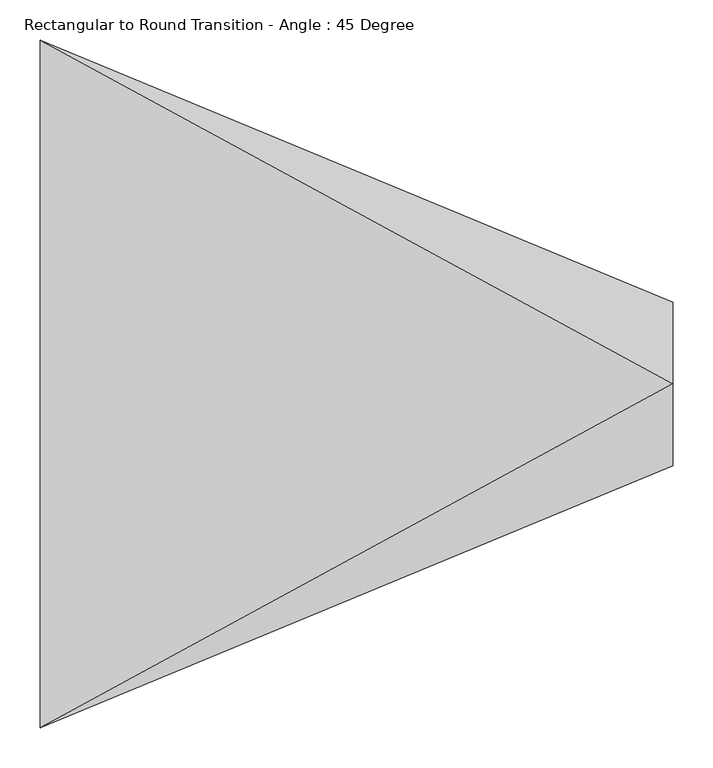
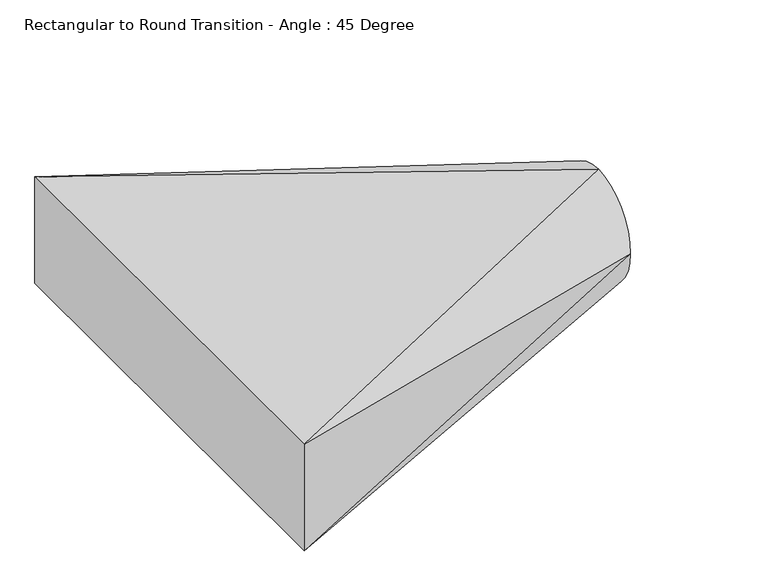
"""IFC4 building model written with IfcOpenShell, lengths in millimetres: duct fitting geometry, Rectangular to Round Transition - Angle : 45 Degree."""

from ifc_helpers import new_model, si_unit, frame, origin, place, context, project, spatial, circle_curve, source, transform, mapped, element, save
from ifc_brep_helpers import plane_surface, spline_surface, advanced_brep


def rectangular_to_round_transition_angle_45_degree_09297cf0(model_context):
    return source(origin(), model_context, "Body", "AdvancedBrep", [
        advanced_brep(
        [(787.5919082, 0.0, 101.6), (787.5919082, -101.6, 0.0), (787.5919082, 0.0, -101.6), (787.5919082, 101.6, 0.0), (0.0, -427.83125, 103.1875), (0.0, 427.83125, 103.1875), (0.0, 427.83125, -103.1875), (0.0, -427.83125, -103.1875)],
        [
            (0, 1, circle_curve(frame((787.5919082, 0.0, 0.0), z_axis=(1.0, 0.0, 0.0), x_axis=(0.0, 1.0, 0.0)), 101.6)),
            (1, 2, circle_curve(frame((787.5919082, 0.0, 0.0), z_axis=(1.0, 0.0, 0.0), x_axis=(0.0, 1.0, 0.0)), 101.6)),
            (2, 3, circle_curve(frame((787.5919082, 0.0, 0.0), z_axis=(1.0, 0.0, 0.0), x_axis=(0.0, 1.0, 0.0)), 101.6)),
            (3, 0, circle_curve(frame((787.5919082, 0.0, 0.0), z_axis=(1.0, 0.0, 0.0), x_axis=(0.0, 1.0, 0.0)), 101.6)),
            (4, 5),
            (5, 6),
            (6, 7),
            (7, 4),
            (0, 4),
            (4, 1),
            (7, 1),
            (7, 2),
            (6, 2),
            (6, 3),
            (5, 3),
            (5, 0),
        ],
        [
            plane_surface(frame((787.5919082, 0.0, 0.0), z_axis=(1.0, 0.0, 0.0), x_axis=(0.0, 0.0, -1.0))),
            plane_surface(frame((0.0, 0.0, 0.0), z_axis=(-1.0, 0.0, 0.0), x_axis=(0.0, 0.0, -1.0))),
            spline_surface(2, 1, [[(0.0, -427.83125, 103.1875), (787.5919082, 0.0, 101.6)], [(0.0, -427.83125, 103.1875), (787.5919082, -101.6, 101.6)], [(0.0, -427.83125, 103.1875), (787.5919082, -101.6, 0.0)]], [3, 3], [2, 2], [0.0, 1.0], [0.0, 1.0], weights=[[1.0, 1.0], [0.7071067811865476, 0.7071067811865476], [1.0, 1.0]]),
            plane_surface(frame((0.0, -427.83125, 0.0), z_axis=(0.3826834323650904, -0.9238795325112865, 0.0), x_axis=(0.0, 0.0, -1.0))),
            spline_surface(2, 1, [[(0.0, -427.83125, -103.1875), (787.5919082, -101.6, 0.0)], [(0.0, -427.83125, -103.1875), (787.5919082, -101.6, -101.6)], [(0.0, -427.83125, -103.1875), (787.5919082, 0.0, -101.6)]], [3, 3], [2, 2], [0.0, 1.0], [0.0, 1.0], weights=[[1.0, 1.0], [0.7071067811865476, 0.7071067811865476], [1.0, 1.0]]),
            plane_surface(frame((0.0, 0.0, -103.1875), z_axis=(0.0020156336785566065, 0.0, -0.9999979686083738), x_axis=(0.0, 1.0, 0.0))),
            spline_surface(2, 1, [[(0.0, 427.83125, -103.1875), (787.5919082, 0.0, -101.6)], [(0.0, 427.83125, -103.1875), (787.5919082, 101.6, -101.6)], [(0.0, 427.83125, -103.1875), (787.5919082, 101.6, 0.0)]], [3, 3], [2, 2], [0.0, 1.0], [0.0, 1.0], weights=[[1.0, 1.0], [0.7071067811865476, 0.7071067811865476], [1.0, 1.0]]),
            plane_surface(frame((0.0, 427.83125, 0.0), z_axis=(0.3826834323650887, 0.9238795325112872, 0.0), x_axis=(0.0, 0.0, 1.0))),
            spline_surface(2, 1, [[(0.0, 427.83125, 103.1875), (787.5919082, 101.6, 0.0)], [(0.0, 427.83125, 103.1875), (787.5919082, 101.6, 101.6)], [(0.0, 427.83125, 103.1875), (787.5919082, 0.0, 101.6)]], [3, 3], [2, 2], [0.0, 1.0], [0.0, 1.0], weights=[[1.0, 1.0], [0.7071067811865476, 0.7071067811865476], [1.0, 1.0]]),
            plane_surface(frame((0.0, 0.0, 103.1875), z_axis=(0.00201563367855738, 0.0, 0.9999979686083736), x_axis=(0.0, -1.0, 0.0))),
        ],
        [
            (0, [[1, 2, 3, 4]]),
            (1, [[5, 6, 7, 8]]),
            (2, [[-1, 9, 10]]),
            (3, [[-8, 11, -10]]),
            (4, [[-2, -11, 12]]),
            (5, [[-7, 13, -12]]),
            (6, [[-3, -13, 14]]),
            (7, [[-6, 15, -14]]),
            (8, [[-4, -15, 16]]),
            (9, [[-5, -9, -16]]),
        ],
    ),
    ])


if __name__ == "__main__":
    model = new_model("IFC4")
    model_context = context("Model", 3, world=origin())
    ifc_project = project(units=[si_unit("LENGTHUNIT", "METRE", prefix="MILLI")], contexts=[model_context])
    site = spatial("IfcSite", under=ifc_project)
    building = spatial("IfcBuilding", under=site)
    placement = place(None, origin())
    rectangular_to_round_transition_angle_45_degree_shape = rectangular_to_round_transition_angle_45_degree_09297cf0(model_context)
    element("IfcDuctFitting", 1, ObjectType="Rectangular to Round Transition - Angle : 45 Degree", at=placement, inside=building, context=model_context, shape_type="MappedRepresentation", body=[
        mapped(rectangular_to_round_transition_angle_45_degree_shape, transform((0.0, 0.0, 0.0), x_axis=(1.0, 0.0, 0.0), y_axis=(0.0, 1.0, 0.0), z_axis=(0.0, 0.0, 1.0))),
    ])
    save(model, "model.ifc")
